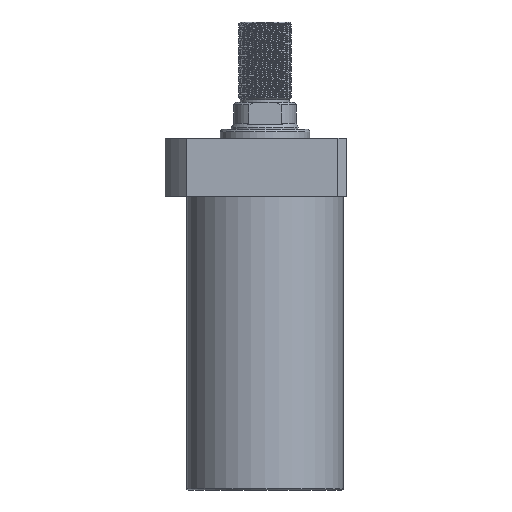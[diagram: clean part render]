
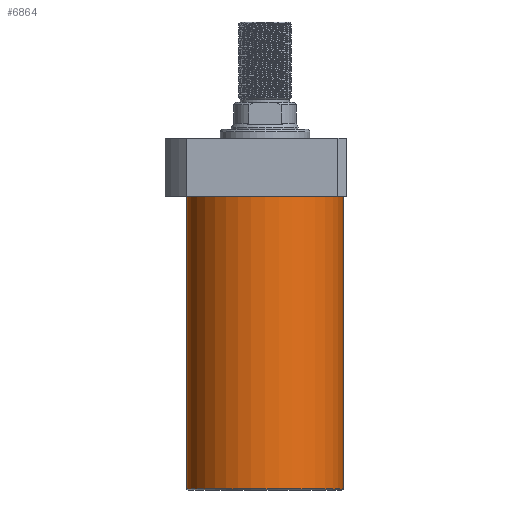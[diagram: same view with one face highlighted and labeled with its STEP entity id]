
A CAD part, front view. The second image highlights one B-rep face of the part: STEP entity #6864.
In plain terms, the highlighted cylindrical face has radius 52.5 mm (diameter 105 mm), a partial arc.
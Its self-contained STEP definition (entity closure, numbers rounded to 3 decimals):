
#323 = VERTEX_POINT ( 'NONE', #5401 ) ;
#398 = ORIENTED_EDGE ( 'NONE', *, *, #6036, .T. ) ;
#599 = DIRECTION ( 'NONE',  ( 0., 0., 1. ) ) ;
#681 = VECTOR ( 'NONE', #599, 1000. ) ;
#855 = DIRECTION ( 'NONE',  ( 1., 0., 0. ) ) ;
#885 = LINE ( 'NONE', #8350, #681 ) ;
#1016 = AXIS2_PLACEMENT_3D ( 'NONE', #6176, #2300, #6836 ) ;
#1533 = DIRECTION ( 'NONE',  ( 0., 0., 1. ) ) ;
#1595 = VERTEX_POINT ( 'NONE', #2220 ) ;
#1609 = VERTEX_POINT ( 'NONE', #7410 ) ;
#1837 = ORIENTED_EDGE ( 'NONE', *, *, #5637, .F. ) ;
#2196 = DIRECTION ( 'NONE',  ( 0., 0., 1. ) ) ;
#2220 = CARTESIAN_POINT ( 'NONE',  ( -52.5, 0., -215.5 ) ) ;
#2300 = DIRECTION ( 'NONE',  ( 0., 0., -1. ) ) ;
#2726 = FACE_OUTER_BOUND ( 'NONE', #7679, .T. ) ;
#2967 = ORIENTED_EDGE ( 'NONE', *, *, #5325, .T. ) ;
#3231 = VERTEX_POINT ( 'NONE', #6625 ) ;
#3255 = CIRCLE ( 'NONE', #6259, 52.5 ) ;
#3664 = CARTESIAN_POINT ( 'NONE',  ( -52.5, 0., -216.5 ) ) ;
#3675 = ORIENTED_EDGE ( 'NONE', *, *, #8256, .T. ) ;
#5325 = EDGE_CURVE ( 'NONE', #3231, #323, #885, .T. ) ;
#5392 = CARTESIAN_POINT ( 'NONE',  ( 0., 0., -216.5 ) ) ;
#5401 = CARTESIAN_POINT ( 'NONE',  ( 52.5, 0., -19.5 ) ) ;
#5637 = EDGE_CURVE ( 'NONE', #1595, #1609, #7637, .T. ) ;
#5708 = VECTOR ( 'NONE', #8174, 1000. ) ;
#5785 = CYLINDRICAL_SURFACE ( 'NONE', #5896, 52.5 ) ;
#5896 = AXIS2_PLACEMENT_3D ( 'NONE', #5392, #1533, #855 ) ;
#6036 = EDGE_CURVE ( 'NONE', #323, #1609, #7116, .T. ) ;
#6077 = CARTESIAN_POINT ( 'NONE',  ( 0., 0., -215.5 ) ) ;
#6176 = CARTESIAN_POINT ( 'NONE',  ( 0., 0., -19.5 ) ) ;
#6259 = AXIS2_PLACEMENT_3D ( 'NONE', #6077, #2196, #6739 ) ;
#6625 = CARTESIAN_POINT ( 'NONE',  ( 52.5, 0., -215.5 ) ) ;
#6739 = DIRECTION ( 'NONE',  ( -1., 0., 0. ) ) ;
#6836 = DIRECTION ( 'NONE',  ( 1., 0., 0. ) ) ;
#6864 = ADVANCED_FACE ( 'NONE', ( #2726 ), #5785, .T. ) ;
#7116 = CIRCLE ( 'NONE', #1016, 52.5 ) ;
#7410 = CARTESIAN_POINT ( 'NONE',  ( -52.5, 0., -19.5 ) ) ;
#7637 = LINE ( 'NONE', #3664, #5708 ) ;
#7679 = EDGE_LOOP ( 'NONE', ( #1837, #3675, #2967, #398 ) ) ;
#8174 = DIRECTION ( 'NONE',  ( 0., 0., 1. ) ) ;
#8256 = EDGE_CURVE ( 'NONE', #1595, #3231, #3255, .T. ) ;
#8350 = CARTESIAN_POINT ( 'NONE',  ( 52.5, 0., -216.5 ) ) ;
